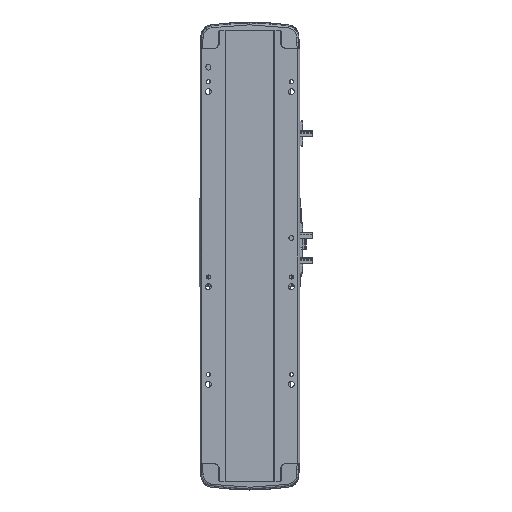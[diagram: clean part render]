
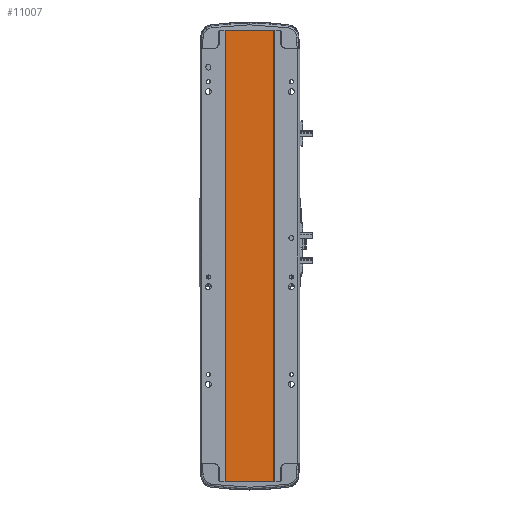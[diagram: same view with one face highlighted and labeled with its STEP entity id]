
A CAD part, front view. The second image highlights one B-rep face of the part: STEP entity #11007.
In plain terms, the highlighted planar face has unit normal (0, -1, 0).
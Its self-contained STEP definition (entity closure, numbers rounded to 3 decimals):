
#3314 = VECTOR ( 'NONE', #17598, 1000. ) ;
#3458 = EDGE_CURVE ( 'NONE', #43869, #41285, #26083, .T. ) ;
#3745 = LINE ( 'NONE', #28864, #42659 ) ;
#9822 = CARTESIAN_POINT ( 'NONE',  ( 24.5, 2., 463. ) ) ;
#11007 = ADVANCED_FACE ( 'NONE', ( #27451 ), #43029, .F. ) ;
#12370 = VECTOR ( 'NONE', #45716, 1000. ) ;
#13003 = CARTESIAN_POINT ( 'NONE',  ( -24.5, 2., 463. ) ) ;
#13191 = EDGE_CURVE ( 'NONE', #43869, #31087, #35912, .T. ) ;
#13759 = DIRECTION ( 'NONE',  ( 0., 0., -1. ) ) ;
#14504 = ORIENTED_EDGE ( 'NONE', *, *, #23921, .F. ) ;
#17598 = DIRECTION ( 'NONE',  ( 1., 0., 0. ) ) ;
#20964 = DIRECTION ( 'NONE',  ( 0., 1., 0. ) ) ;
#21139 = CARTESIAN_POINT ( 'NONE',  ( 0., 2., 463. ) ) ;
#23255 = AXIS2_PLACEMENT_3D ( 'NONE', #21139, #20964, #24763 ) ;
#23921 = EDGE_CURVE ( 'NONE', #31087, #32780, #29355, .T. ) ;
#24763 = DIRECTION ( 'NONE',  ( 0., 0., 1. ) ) ;
#25242 = ORIENTED_EDGE ( 'NONE', *, *, #13191, .F. ) ;
#25499 = DIRECTION ( 'NONE',  ( 1., 0., 0. ) ) ;
#26083 = LINE ( 'NONE', #26838, #12370 ) ;
#26838 = CARTESIAN_POINT ( 'NONE',  ( -24.5, 2., 463. ) ) ;
#27451 = FACE_OUTER_BOUND ( 'NONE', #43259, .T. ) ;
#27949 = CARTESIAN_POINT ( 'NONE',  ( 24.5, 2., 463. ) ) ;
#28864 = CARTESIAN_POINT ( 'NONE',  ( 24.5, 2., 0. ) ) ;
#29355 = LINE ( 'NONE', #27949, #30396 ) ;
#30396 = VECTOR ( 'NONE', #13759, 1000. ) ;
#31087 = VERTEX_POINT ( 'NONE', #9822 ) ;
#32780 = VERTEX_POINT ( 'NONE', #37982 ) ;
#35912 = LINE ( 'NONE', #42845, #3314 ) ;
#37982 = CARTESIAN_POINT ( 'NONE',  ( 24.5, 2., 0. ) ) ;
#39951 = ORIENTED_EDGE ( 'NONE', *, *, #43169, .T. ) ;
#40136 = ORIENTED_EDGE ( 'NONE', *, *, #3458, .T. ) ;
#41285 = VERTEX_POINT ( 'NONE', #42452 ) ;
#42452 = CARTESIAN_POINT ( 'NONE',  ( -24.5, 2., 0. ) ) ;
#42659 = VECTOR ( 'NONE', #25499, 1000. ) ;
#42845 = CARTESIAN_POINT ( 'NONE',  ( -24.5, 2., 463. ) ) ;
#43029 = PLANE ( 'NONE',  #23255 ) ;
#43169 = EDGE_CURVE ( 'NONE', #41285, #32780, #3745, .T. ) ;
#43259 = EDGE_LOOP ( 'NONE', ( #40136, #39951, #14504, #25242 ) ) ;
#43869 = VERTEX_POINT ( 'NONE', #13003 ) ;
#45716 = DIRECTION ( 'NONE',  ( 0., 0., -1. ) ) ;
